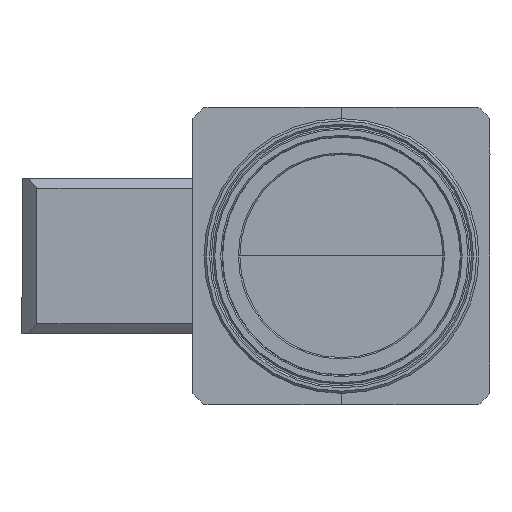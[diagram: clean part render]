
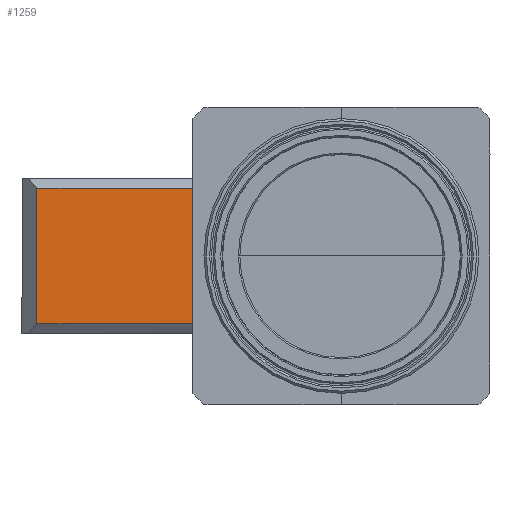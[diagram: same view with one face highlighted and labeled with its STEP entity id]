
A CAD part, left-side view. The second image highlights one B-rep face of the part: STEP entity #1259.
In plain terms, the highlighted planar face has unit normal (-1, 0, 0).
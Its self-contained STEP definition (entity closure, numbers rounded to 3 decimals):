
#391 = DIRECTION ( 'NONE',  ( 0., 0., 1. ) ) ;
#416 = ORIENTED_EDGE ( 'NONE', *, *, #574, .T. ) ;
#574 = EDGE_CURVE ( 'NONE', #4038, #757, #3407, .T. ) ;
#613 = CARTESIAN_POINT ( 'NONE',  ( 77.643, 43., -9.13 ) ) ;
#617 = LINE ( 'NONE', #763, #3176 ) ;
#632 = CARTESIAN_POINT ( 'NONE',  ( 77.643, 41., -9.13 ) ) ;
#757 = VERTEX_POINT ( 'NONE', #632 ) ;
#763 = CARTESIAN_POINT ( 'NONE',  ( 77.643, 43., 9.13 ) ) ;
#950 = VECTOR ( 'NONE', #4231, 1000. ) ;
#984 = PLANE ( 'NONE',  #1498 ) ;
#1043 = ORIENTED_EDGE ( 'NONE', *, *, #4110, .T. ) ;
#1259 = ADVANCED_FACE ( 'NONE', ( #2617 ), #984, .T. ) ;
#1438 = VERTEX_POINT ( 'NONE', #3267 ) ;
#1498 = AXIS2_PLACEMENT_3D ( 'NONE', #3173, #1712, #4244 ) ;
#1658 = VECTOR ( 'NONE', #391, 1000. ) ;
#1664 = EDGE_LOOP ( 'NONE', ( #2978, #416, #3740, #1043 ) ) ;
#1712 = DIRECTION ( 'NONE',  ( -1., 0., 0. ) ) ;
#1825 = CARTESIAN_POINT ( 'NONE',  ( 77.643, 41., -10.5 ) ) ;
#1843 = EDGE_CURVE ( 'NONE', #757, #1438, #3838, .T. ) ;
#2094 = VERTEX_POINT ( 'NONE', #3659 ) ;
#2617 = FACE_OUTER_BOUND ( 'NONE', #1664, .T. ) ;
#2880 = CARTESIAN_POINT ( 'NONE',  ( 77.643, 41., 9.13 ) ) ;
#2942 = EDGE_CURVE ( 'NONE', #2094, #4038, #617, .T. ) ;
#2978 = ORIENTED_EDGE ( 'NONE', *, *, #2942, .T. ) ;
#3173 = CARTESIAN_POINT ( 'NONE',  ( 77.643, 20., -10.5 ) ) ;
#3176 = VECTOR ( 'NONE', #4019, 1000. ) ;
#3267 = CARTESIAN_POINT ( 'NONE',  ( 77.643, 20., -9.13 ) ) ;
#3273 = CARTESIAN_POINT ( 'NONE',  ( 77.643, 20., -10.5 ) ) ;
#3297 = DIRECTION ( 'NONE',  ( 0., 0., -1. ) ) ;
#3407 = LINE ( 'NONE', #1825, #4473 ) ;
#3474 = LINE ( 'NONE', #3273, #1658 ) ;
#3659 = CARTESIAN_POINT ( 'NONE',  ( 77.643, 20., 9.13 ) ) ;
#3740 = ORIENTED_EDGE ( 'NONE', *, *, #1843, .T. ) ;
#3838 = LINE ( 'NONE', #613, #950 ) ;
#4019 = DIRECTION ( 'NONE',  ( 0., 1., 0. ) ) ;
#4038 = VERTEX_POINT ( 'NONE', #2880 ) ;
#4110 = EDGE_CURVE ( 'NONE', #1438, #2094, #3474, .T. ) ;
#4231 = DIRECTION ( 'NONE',  ( 0., -1., 0. ) ) ;
#4244 = DIRECTION ( 'NONE',  ( 0., 0., 1. ) ) ;
#4473 = VECTOR ( 'NONE', #3297, 1000. ) ;
